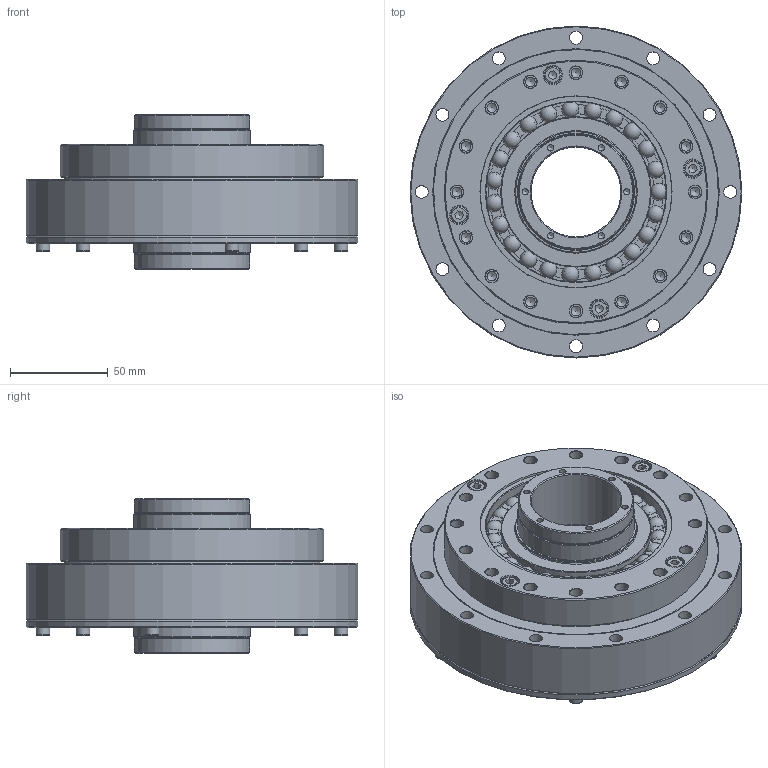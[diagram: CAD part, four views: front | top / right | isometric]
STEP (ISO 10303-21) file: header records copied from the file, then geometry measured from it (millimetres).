
FILE_DESCRIPTION(/* description */ (''),/* implementation_level */ '2;1');
FILE_NAME(/* name */ '\\Hiwin.tw\dfs\TB00F\研發課二組\\X2\6A5F5BC67D1A\X0\\97.同仁共享區 (機密級)\H11\\X2\6B236021\X0\\2023專案追蹤\2.型錄\\X2\6A21578B\X0\\官網3D檔(NEW)\DGH-PH\DGH-40-XX-PH.stp',/* time_stamp */ '2024-08-26T10:52:02+08:00',/* author */ ('hienya'),/* organization */ (''),/* preprocessor_version */ 'ST-DEVELOPER v15.2',/* originating_system */ 'Autodesk Inventor 2014',/* authorisation */ '');
FILE_SCHEMA (('AUTOMOTIVE_DESIGN { 1 0 10303 214 3 1 1 }'));
Length unit declared in the file: centimetre
Products named in the file (1): DGH-40-XX-PH
Bounding box: 170 x 170 x 79 mm (x, y, z)
Volume: 720186 mm3; surface area: 131929.8 mm2
Topology: 1 solids, 17 shells, 660 faces, 1593 edges, 997 vertices
Faces by surface type: cylinder 219, plane 194, cone 150, torus 74, sphere 23
Full cylindrical faces by diameter (mm): 3.242 x18, 4 x6, 4.5 x6, 4.917 x16, 5 x4, 5.5 x4, 6.6 x40, 7 x6, 8.5 x4, 9.5 x4, 46 x2, 46.5 x1, 57 x1, 59 x2, 60 x3, 62 x1, 65 x1, 76.96 x1, 92.35 x1, 98.06 x1, 135 x1, 140 x1, 146 x1, 170 x2
Entity records: 16543 total; most frequent: CARTESIAN_POINT 3121, DIRECTION 3048, ORIENTED_EDGE 2282, AXIS2_PLACEMENT_3D 1418, EDGE_CURVE 1095, EDGE_LOOP 1064, VERTEX_POINT 827, CIRCLE 757
